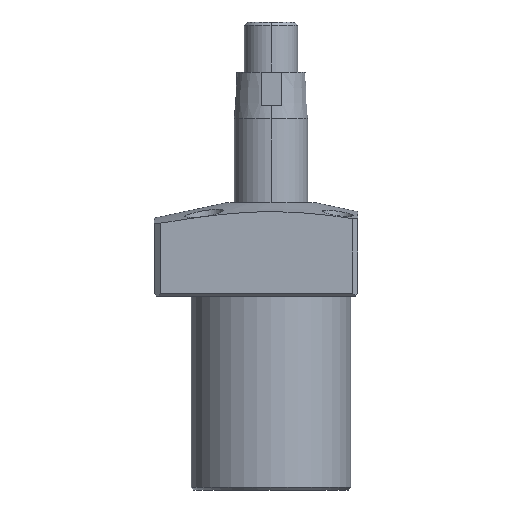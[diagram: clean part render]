
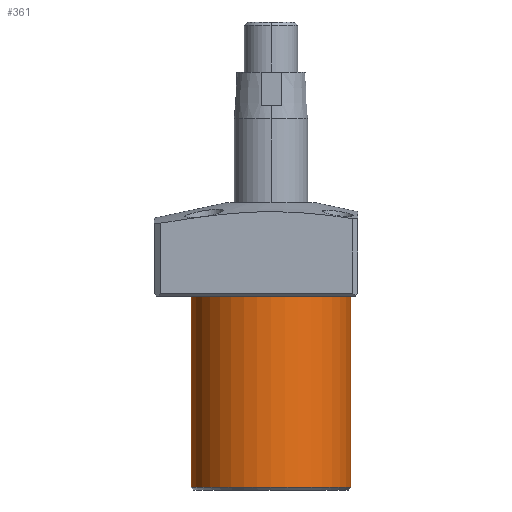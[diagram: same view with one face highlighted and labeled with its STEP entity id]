
A CAD part, front view. The second image highlights one B-rep face of the part: STEP entity #361.
In plain terms, the highlighted cylindrical face has radius 23.9 mm (diameter 47.8 mm), a partial arc.
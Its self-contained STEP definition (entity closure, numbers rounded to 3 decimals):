
#46 = CARTESIAN_POINT ( 'NONE',  ( 23.9, 0., 58. ) ) ;
#95 = DIRECTION ( 'NONE',  ( 0., 0., -1. ) ) ;
#200 = EDGE_CURVE ( 'NONE', #1503, #836, #850, .T. ) ;
#211 = CIRCLE ( 'NONE', #2376, 23.9 ) ;
#233 = CARTESIAN_POINT ( 'NONE',  ( -23.9, 0., 0.8 ) ) ;
#236 = EDGE_CURVE ( 'NONE', #2571, #1503, #1103, .T. ) ;
#300 = DIRECTION ( 'NONE',  ( 1., 0., 0. ) ) ;
#361 = ADVANCED_FACE ( 'NONE', ( #1373 ), #1760, .T. ) ;
#466 = DIRECTION ( 'NONE',  ( 1., 0., 0. ) ) ;
#491 = EDGE_CURVE ( 'NONE', #899, #836, #892, .T. ) ;
#506 = EDGE_CURVE ( 'NONE', #2571, #899, #211, .T. ) ;
#683 = VECTOR ( 'NONE', #1701, 1000. ) ;
#836 = VERTEX_POINT ( 'NONE', #1144 ) ;
#850 = CIRCLE ( 'NONE', #2336, 23.9 ) ;
#887 = CARTESIAN_POINT ( 'NONE',  ( -23.9, 0., 58. ) ) ;
#892 = LINE ( 'NONE', #46, #683 ) ;
#899 = VERTEX_POINT ( 'NONE', #1158 ) ;
#961 = ORIENTED_EDGE ( 'NONE', *, *, #200, .T. ) ;
#964 = CARTESIAN_POINT ( 'NONE',  ( 0., 0., 58. ) ) ;
#1103 = LINE ( 'NONE', #887, #1573 ) ;
#1144 = CARTESIAN_POINT ( 'NONE',  ( 23.9, 0., 0.8 ) ) ;
#1158 = CARTESIAN_POINT ( 'NONE',  ( 23.9, 0., 58. ) ) ;
#1292 = CARTESIAN_POINT ( 'NONE',  ( 0., 0., 0.8 ) ) ;
#1373 = FACE_OUTER_BOUND ( 'NONE', #1958, .T. ) ;
#1503 = VERTEX_POINT ( 'NONE', #233 ) ;
#1573 = VECTOR ( 'NONE', #95, 1000. ) ;
#1683 = DIRECTION ( 'NONE',  ( 0., 0., 1. ) ) ;
#1701 = DIRECTION ( 'NONE',  ( 0., 0., -1. ) ) ;
#1760 = CYLINDRICAL_SURFACE ( 'NONE', #2032, 23.9 ) ;
#1773 = ORIENTED_EDGE ( 'NONE', *, *, #491, .F. ) ;
#1914 = CARTESIAN_POINT ( 'NONE',  ( -23.9, 0., 58. ) ) ;
#1958 = EDGE_LOOP ( 'NONE', ( #1773, #2017, #2290, #961 ) ) ;
#2017 = ORIENTED_EDGE ( 'NONE', *, *, #506, .F. ) ;
#2032 = AXIS2_PLACEMENT_3D ( 'NONE', #964, #2333, #2184 ) ;
#2101 = DIRECTION ( 'NONE',  ( 0., 0., 1. ) ) ;
#2184 = DIRECTION ( 'NONE',  ( -1., 0., 0. ) ) ;
#2290 = ORIENTED_EDGE ( 'NONE', *, *, #236, .T. ) ;
#2333 = DIRECTION ( 'NONE',  ( 0., 0., -1. ) ) ;
#2336 = AXIS2_PLACEMENT_3D ( 'NONE', #1292, #2101, #300 ) ;
#2376 = AXIS2_PLACEMENT_3D ( 'NONE', #2512, #1683, #466 ) ;
#2512 = CARTESIAN_POINT ( 'NONE',  ( 0., 0., 58. ) ) ;
#2571 = VERTEX_POINT ( 'NONE', #1914 ) ;
